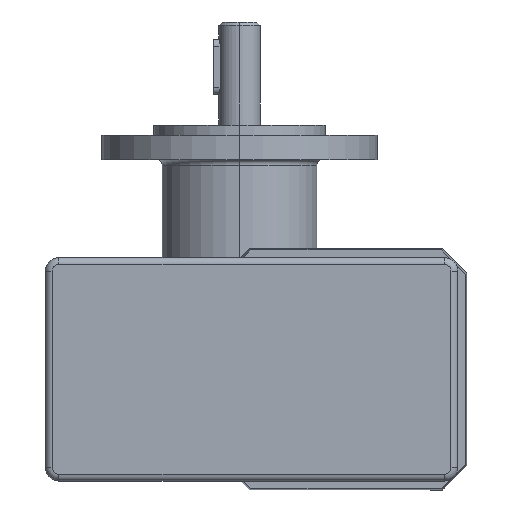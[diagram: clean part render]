
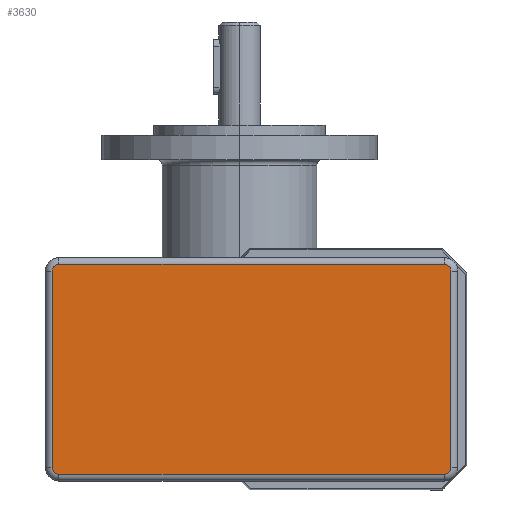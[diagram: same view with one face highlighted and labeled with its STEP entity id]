
A CAD part, left-side view. The second image highlights one B-rep face of the part: STEP entity #3630.
In plain terms, the highlighted planar face has unit normal (-1, 0, 0) as drawn and (0, 0, -1) by its records, which use the part's own axes.
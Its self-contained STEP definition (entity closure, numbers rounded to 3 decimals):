
#110=CARTESIAN_POINT('',(-102.958,-322.978,
-98.5));
#120=VERTEX_POINT('',#110);
#300=CARTESIAN_POINT('',(-102.958,-210.978,
-98.5));
#310=VERTEX_POINT('',#300);
#340=CARTESIAN_POINT('',(-102.958,-305.92,
-98.5));
#350=DIRECTION('',(0.,1.,0.));
#360=VECTOR('',#350,1.);
#370=LINE('',#340,#360);
#380=EDGE_CURVE('',#120,#310,#370,.T.);
#2580=CARTESIAN_POINT('',(-104.958,-208.978,
-98.5));
#2590=VERTEX_POINT('',#2580);
#2750=CARTESIAN_POINT('',(-161.958,-208.978,
-98.5));
#2760=VERTEX_POINT('',#2750);
#2790=CARTESIAN_POINT('',(-121.85,-208.978,
-98.5));
#2800=DIRECTION('',(-1.,0.,0.));
#2810=VECTOR('',#2800,1.);
#2820=LINE('',#2790,#2810);
#2830=EDGE_CURVE('',#2590,#2760,#2820,.T.);
#2940=CARTESIAN_POINT('',(-104.958,-210.978,
-98.5));
#2950=DIRECTION('',(0.,0.,-1.));
#2960=DIRECTION('',(-1.,0.,0.));
#2970=AXIS2_PLACEMENT_3D('',#2940,#2950,#2960);
#2980=CIRCLE('',#2970,2.);
#2990=EDGE_CURVE('',#2590,#310,#2980,.T.);
#3120=CARTESIAN_POINT('',(-121.85,-305.92,
-98.5));
#3130=DIRECTION('',(0.,0.,-1.));
#3140=DIRECTION('',(-1.,0.,0.));
#3150=AXIS2_PLACEMENT_3D('',#3120,#3130,#3140);
#3160=PLANE('',#3150);
#3170=CARTESIAN_POINT('',(-104.958,-322.978,
-98.5));
#3180=DIRECTION('',(0.,0.,-1.));
#3190=DIRECTION('',(-1.,0.,0.));
#3200=AXIS2_PLACEMENT_3D('',#3170,#3180,#3190);
#3210=CIRCLE('',#3200,2.);
#3220=CARTESIAN_POINT('',(-104.958,-324.978,
-98.5));
#3230=VERTEX_POINT('',#3220);
#3240=EDGE_CURVE('',#120,#3230,#3210,.T.);
#3250=ORIENTED_EDGE('',*,*,#3240,.T.);
#3260=ORIENTED_EDGE('',*,*,#380,.F.);
#3270=ORIENTED_EDGE('',*,*,#2990,.T.);
#3280=ORIENTED_EDGE('',*,*,#2830,.F.);
#3290=CARTESIAN_POINT('',(-161.958,-210.978,
-98.5));
#3300=DIRECTION('',(0.,0.,-1.));
#3310=DIRECTION('',(-1.,0.,0.));
#3320=AXIS2_PLACEMENT_3D('',#3290,#3300,#3310);
#3330=CIRCLE('',#3320,2.);
#3340=CARTESIAN_POINT('',(-163.958,-210.978,
-98.5));
#3350=VERTEX_POINT('',#3340);
#3360=EDGE_CURVE('',#3350,#2760,#3330,.T.);
#3370=ORIENTED_EDGE('',*,*,#3360,.T.);
#3380=CARTESIAN_POINT('',(-163.958,-305.92,
-98.5));
#3390=DIRECTION('',(0.,-1.,0.));
#3400=VECTOR('',#3390,1.);
#3410=LINE('',#3380,#3400);
#3420=CARTESIAN_POINT('',(-163.958,-322.978,
-98.5));
#3430=VERTEX_POINT('',#3420);
#3440=EDGE_CURVE('',#3350,#3430,#3410,.T.);
#3450=ORIENTED_EDGE('',*,*,#3440,.F.);
#3460=CARTESIAN_POINT('',(-161.958,-322.978,
-98.5));
#3470=DIRECTION('',(0.,0.,-1.));
#3480=DIRECTION('',(-1.,0.,0.));
#3490=AXIS2_PLACEMENT_3D('',#3460,#3470,#3480);
#3500=CIRCLE('',#3490,2.);
#3510=CARTESIAN_POINT('',(-161.958,-324.978,
-98.5));
#3520=VERTEX_POINT('',#3510);
#3530=EDGE_CURVE('',#3520,#3430,#3500,.T.);
#3540=ORIENTED_EDGE('',*,*,#3530,.T.);
#3550=CARTESIAN_POINT('',(-121.85,-324.978,
-98.5));
#3560=DIRECTION('',(1.,0.,0.));
#3570=VECTOR('',#3560,1.);
#3580=LINE('',#3550,#3570);
#3590=EDGE_CURVE('',#3520,#3230,#3580,.T.);
#3600=ORIENTED_EDGE('',*,*,#3590,.F.);
#3610=EDGE_LOOP('',(#3600,#3540,#3450,#3370,#3280,#3270,#3260,#3250));
#3620=FACE_OUTER_BOUND('',#3610,.T.);
#3630=ADVANCED_FACE('',(#3620),#3160,.T.);
